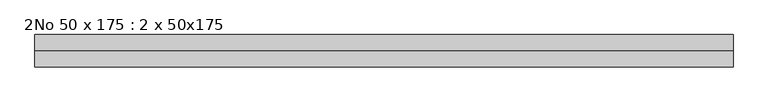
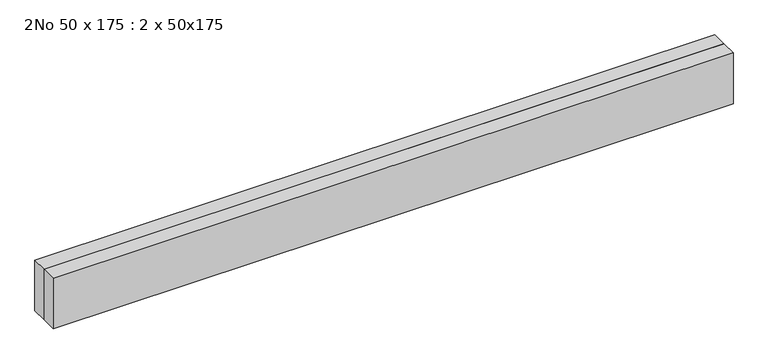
"""IFC4 building model written with IfcOpenShell, lengths in millimetres: beam geometry, 2No 50 x 175 : 2 x 50x175."""

from ifc_helpers import new_model, si_unit, frame, origin, place, context, project, spatial, polyline, outline, extrude, source, transform, mapped, element, save


def beam_2no_50_x_175_2_x_50x175_51455c39(model_context):
    return source(origin(), model_context, "Body", "SweptSolid", [
        extrude(outline(polyline([(1079.0000006, -25.0), (1079.0000006, -75.0), (-1080.0189604, -75.0), (-1080.0189604, -25.0), (1079.0000006, -25.0)])), frame((0.0, 0.0, -85.0), z_axis=(0.0, 0.0, 1.0), x_axis=(1.0, 0.0, 0.0)), (0.0, 0.0, 1.0), 170.0),
        extrude(outline(polyline([(1079.0000006, 25.0), (1079.0000006, -25.0), (-1080.0189604, -25.0), (-1080.0189604, 25.0), (1079.0000006, 25.0)])), frame((0.0, 0.0, -85.0), z_axis=(0.0, 0.0, 1.0), x_axis=(1.0, 0.0, 0.0)), (0.0, 0.0, 1.0), 170.0),
    ])


if __name__ == "__main__":
    model = new_model("IFC4")
    model_context = context("Model", 3, world=origin())
    ifc_project = project(units=[si_unit("LENGTHUNIT", "METRE", prefix="MILLI")], contexts=[model_context])
    site = spatial("IfcSite", under=ifc_project)
    building = spatial("IfcBuilding", under=site)
    placement = place(None, origin())
    beam_2no_50_x_175_2_x_50x175_shape = beam_2no_50_x_175_2_x_50x175_51455c39(model_context)
    element("IfcBeam", 1, ObjectType="2No 50 x 175 : 2 x 50x175", at=placement, inside=building, context=model_context, shape_type="MappedRepresentation", body=[
        mapped(beam_2no_50_x_175_2_x_50x175_shape, transform((0.0, 0.0, 0.0), x_axis=(1.0, 0.0, 0.0), y_axis=(0.0, 1.0, 0.0), z_axis=(0.0, 0.0, 1.0))),
    ])
    save(model, "model.ifc")
